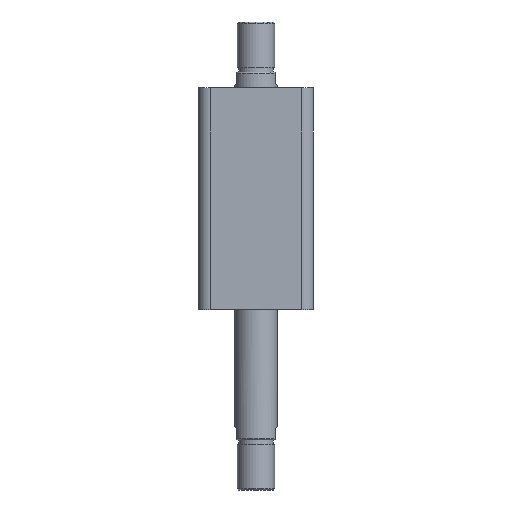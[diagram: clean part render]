
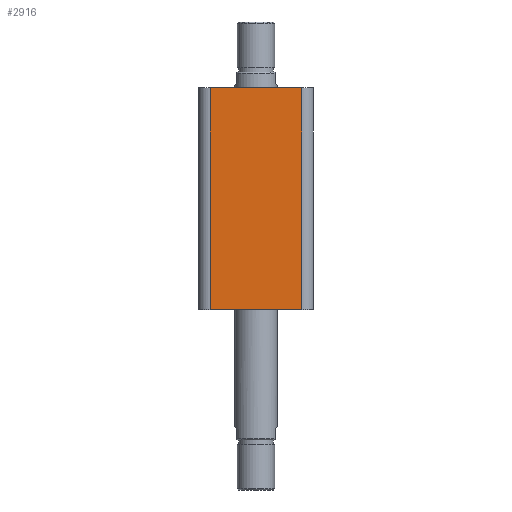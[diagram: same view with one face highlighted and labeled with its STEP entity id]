
A CAD part, front view. The second image highlights one B-rep face of the part: STEP entity #2916.
In plain terms, the highlighted planar face has unit normal (0, -1, 0).
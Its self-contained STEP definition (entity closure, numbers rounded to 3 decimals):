
#17 = VERTEX_POINT ( 'NONE', #140 ) ;
#140 = CARTESIAN_POINT ( 'NONE',  ( 32., -40., 0. ) ) ;
#434 = VERTEX_POINT ( 'NONE', #1541 ) ;
#558 = EDGE_LOOP ( 'NONE', ( #2720, #2721, #2722, #2723 ) ) ;
#906 = CARTESIAN_POINT ( 'NONE',  ( 32., -40., 155. ) ) ;
#1219 = CARTESIAN_POINT ( 'NONE',  ( 32., -40., 155. ) ) ;
#1220 = DIRECTION ( 'NONE',  ( 0., 0., 1. ) ) ;
#1225 = CARTESIAN_POINT ( 'NONE',  ( -40., -40., 0. ) ) ;
#1229 = DIRECTION ( 'NONE',  ( 1., 0., 0. ) ) ;
#1230 = CARTESIAN_POINT ( 'NONE',  ( -32., -40., 155. ) ) ;
#1231 = DIRECTION ( 'NONE',  ( 0., 0., -1. ) ) ;
#1232 = CARTESIAN_POINT ( 'NONE',  ( -40., -40., 155. ) ) ;
#1233 = DIRECTION ( 'NONE',  ( 1., 0., 0. ) ) ;
#1528 = VERTEX_POINT ( 'NONE', #1559 ) ;
#1541 = CARTESIAN_POINT ( 'NONE',  ( -32., -40., 0. ) ) ;
#1559 = CARTESIAN_POINT ( 'NONE',  ( -32., -40., 155. ) ) ;
#1656 = CARTESIAN_POINT ( 'NONE',  ( -40., -40., 155. ) ) ;
#1658 = PLANE ( 'NONE',  #3264 ) ;
#1660 = DIRECTION ( 'NONE',  ( 0., 1., 0. ) ) ;
#1661 = DIRECTION ( 'NONE',  ( 0., 0., 1. ) ) ;
#2101 = FACE_OUTER_BOUND ( 'NONE', #558, .T. ) ;
#2376 = LINE ( 'NONE', #1225, #2382 ) ;
#2378 = LINE ( 'NONE', #1219, #2380 ) ;
#2380 = VECTOR ( 'NONE', #1220, 1000. ) ;
#2381 = LINE ( 'NONE', #1230, #2384 ) ;
#2382 = VECTOR ( 'NONE', #1229, 1000. ) ;
#2383 = LINE ( 'NONE', #1232, #2386 ) ;
#2384 = VECTOR ( 'NONE', #1231, 1000. ) ;
#2386 = VECTOR ( 'NONE', #1233, 1000. ) ;
#2720 = ORIENTED_EDGE ( 'NONE', *, *, #3095, .F. ) ;
#2721 = ORIENTED_EDGE ( 'NONE', *, *, #3094, .T. ) ;
#2722 = ORIENTED_EDGE ( 'NONE', *, *, #3093, .T. ) ;
#2723 = ORIENTED_EDGE ( 'NONE', *, *, #3092, .T. ) ;
#2916 = ADVANCED_FACE ( 'NONE', ( #2101 ), #1658, .F. ) ;
#3092 = EDGE_CURVE ( 'NONE', #17, #3406, #2378, .T. ) ;
#3093 = EDGE_CURVE ( 'NONE', #434, #17, #2376, .T. ) ;
#3094 = EDGE_CURVE ( 'NONE', #1528, #434, #2381, .T. ) ;
#3095 = EDGE_CURVE ( 'NONE', #1528, #3406, #2383, .T. ) ;
#3264 = AXIS2_PLACEMENT_3D ( 'NONE', #1656, #1660, #1661 ) ;
#3406 = VERTEX_POINT ( 'NONE', #906 ) ;
